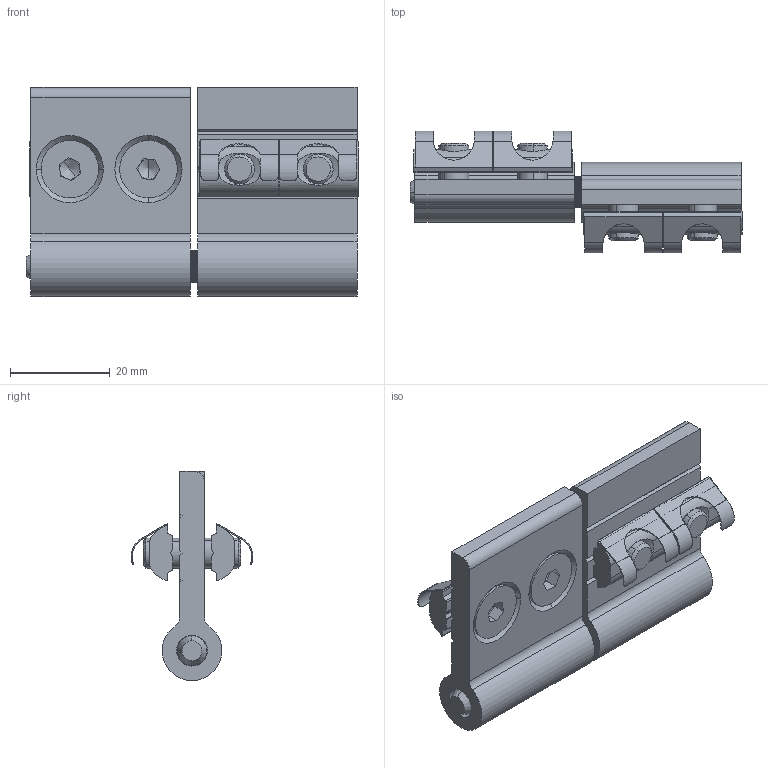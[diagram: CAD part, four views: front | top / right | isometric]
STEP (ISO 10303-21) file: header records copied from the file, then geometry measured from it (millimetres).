
FILE_DESCRIPTION (( 'STEP AP214' ), '1' );
FILE_NAME ('1.4001 Sarana 30-30.STEP', '2025-09-15T08:18:10', ( '' ), ( '' ), 'SwSTEP 2.0', 'SolidWorks 2025', '' );
FILE_SCHEMA (( 'AUTOMOTIVE_DESIGN' ));
Length unit declared in the file: millimetre
Products named in the file (1): 1.4001 Sarana 30-30
Bounding box: 66.7 x 24.49 x 42 mm (x, y, z)
Volume: 19313.7 mm3; surface area: 14614.3 mm2
Topology: 11 solids, 11 shells, 757 faces, 1917 edges, 1236 vertices
Faces by surface type: plane 498, cylinder 207, cone 44, torus 8
Entity records: 31559 total; most frequent: CARTESIAN_POINT 4651, DIRECTION 3873, ORIENTED_EDGE 3818, EDGE_CURVE 1909, AXIS2_PLACEMENT_3D 1338, VERTEX_POINT 1236, LINE 1197, VECTOR 1197
